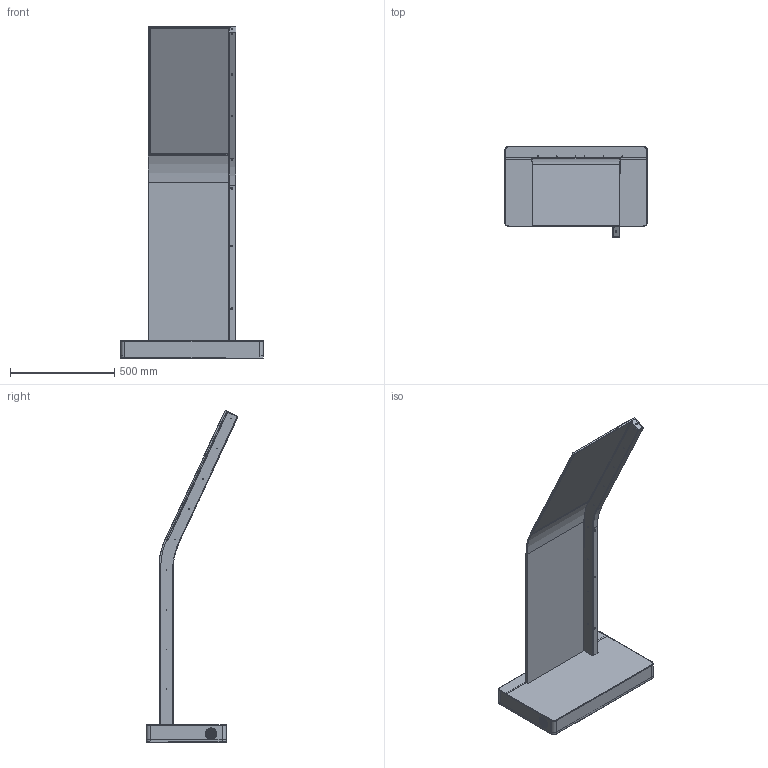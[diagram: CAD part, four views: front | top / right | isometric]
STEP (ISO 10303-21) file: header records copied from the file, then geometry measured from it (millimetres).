
FILE_DESCRIPTION(/* description */ ('Alibre Inc.'),/* implementation_level */ '2;1');
FILE_NAME(/* name */ 'export-070F1C72-25DD-4777-B2AD-5EEF5A5BED37',/* time_stamp */ '2025-03-12T09:07:49+01:00',/* author */ (''),/* organization */ (''),/* preprocessor_version */ 'ST-DEVELOPER v17',/* originating_system */ 'Alibre',/* authorisation */ '');
FILE_SCHEMA (('CONFIG_CONTROL_DESIGN'));
Length unit declared in the file: millimetre
Products named in the file (14): 300-OLED00_10-1611_5_6_1; 300-OLED000_14_1_6_6_1; ASM0001_ASM_31_ASM_4_ASM_4_ASM__ASM; 0001_2_5_1; 00_1_1_2_3; 300-2024-1-250001_ASM_1_ASM; PRT0002_16_2_2_1_1; EC300FOG002V1FOG_4_1_1_2_1_1; 300--500_6_1_2_1_1; 300-HK-6_3_1_2_1_1; 300-000_1_3_2_1_1; ÊÂ°; 30Â´Ã§Â²Ã©Ã‘Â¯Â»Ãº
Bounding box: 684 x 440.01 x 1591.58 mm (x, y, z)
Volume: 10827265.8 mm3; surface area: 3865676.4 mm2
Topology: 9 solids, 9 shells, 1329 faces, 3760 edges, 2491 vertices
Faces by surface type: cylinder 1142, plane 145, cone 34, bspline 4, torus 2, sphere 2
Entity records: 48678 total; most frequent: CARTESIAN_POINT 8678, DIRECTION 8581, ORIENTED_EDGE 7516, EDGE_CURVE 3758, AXIS2_PLACEMENT_3D 3659, VERTEX_POINT 2491, EDGE_LOOP 2387, FACE_BOUND 2387
